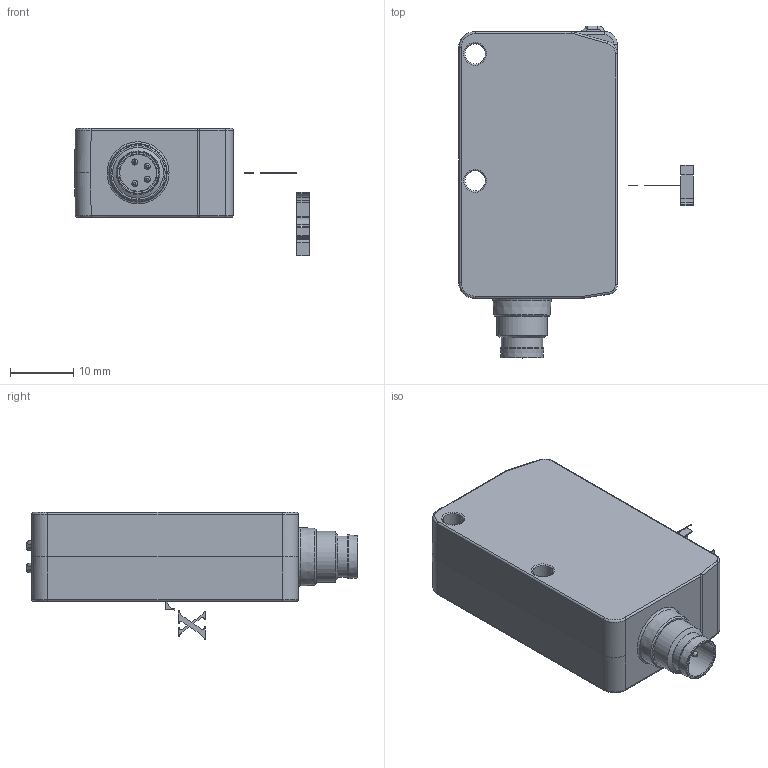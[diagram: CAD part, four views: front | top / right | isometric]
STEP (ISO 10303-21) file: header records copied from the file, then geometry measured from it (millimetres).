
FILE_DESCRIPTION(/* description */ (''),/* implementation_level */ '2;1');
FILE_NAME(/* name */ 'DSD-0444.stp',/* time_stamp */ '2020-09-22T16:42:29+02:00',/* author */ (''),/* organization */ (''),/* preprocessor_version */ 'ST-DEVELOPER v16.7',/* originating_system */ 'SIEMENS PLM Software NX 12.0',/* authorisation */ '');
FILE_SCHEMA (('AUTOMOTIVE_DESIGN { 1 0 10303 214 3 1 1 1 }'));
Length unit declared in the file: millimetre
Products named in the file (1): MBra1EA089BB28gc
Bounding box: 37 x 52.3 x 20.05 mm (x, y, z)
Volume: 14695.4 mm3; surface area: 4900.9 mm2
Topology: 5 solids, 5 shells, 369 faces, 935 edges, 583 vertices
Faces by surface type: cylinder 130, bspline 127, plane 95, cone 9, sphere 4, torus 4
Full cylindrical faces by diameter (mm): 0.95 x4, 3.2 x2, 5.77 x1, 6.52 x1, 6.9 x1, 8 x1
Entity records: 14413 total; most frequent: CARTESIAN_POINT 4007, ORIENTED_EDGE 1776, DIRECTION 1290, EDGE_CURVE 888, VERTEX_POINT 573, AXIS2_PLACEMENT_3D 500, EDGE_LOOP 417, PRESENTATION_STYLE_ASSIGNMENT 374
